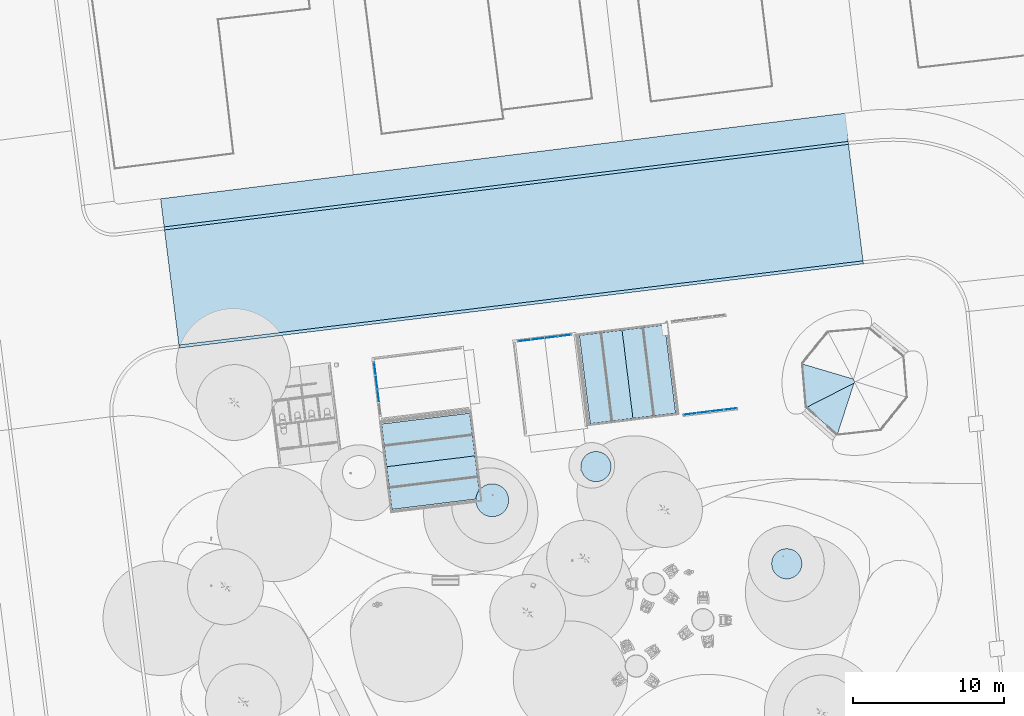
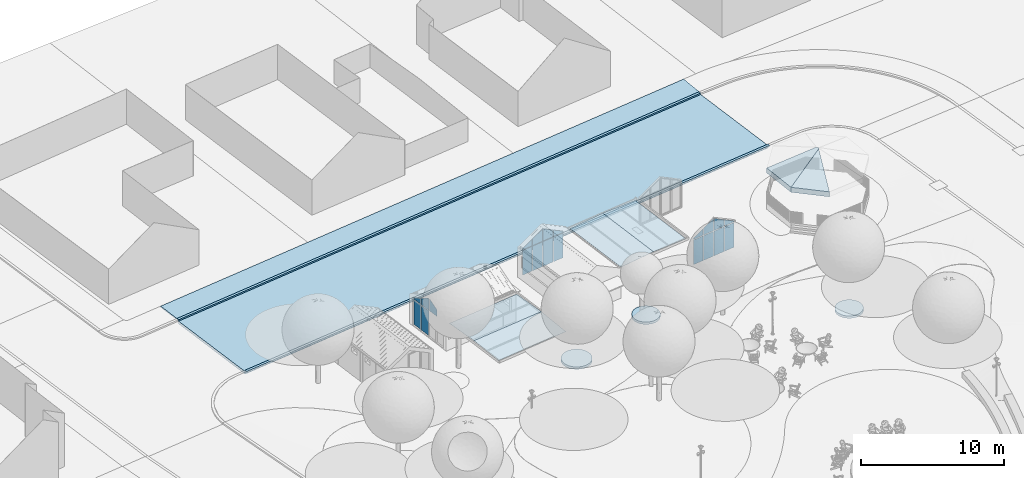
# One storey, part 13 of 75: 25 plates, 9 slabs, 6 elements without a shape of their own.
"""IFC2X3 building model written with IfcOpenShell, lengths in metres."""

from ifc_helpers import new_model, entity, si_unit, converted_unit, derived_unit, direction, frame, frame_2d, origin, origin_2d_with_axis, place, context, subcontext, project, spatial, polyline, rectangle, circle, outline, extrude, faceted_brep, source, transform, mapped, material, layer, layer_set, layer_usage, type_object, type_shapes, element, aggregate, save


model = new_model("IFC2X3")

# Units and contexts
model_context = context("Model", 3, precision=1e-05, world=origin(), true_north=direction((6.123031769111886e-17, 1.0)))
body_context = subcontext(model_context, "Body", "Model", "MODEL_VIEW")
ifc_project = project(units=[si_unit("LENGTHUNIT", "METRE"), si_unit("AREAUNIT", "SQUARE_METRE"), si_unit("VOLUMEUNIT", "CUBIC_METRE"), converted_unit("PLANEANGLEUNIT", "DEGREE", entity("IfcRatioMeasure", 0.017453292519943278), si_unit("PLANEANGLEUNIT", "RADIAN"), dimensions=[0, 0, 0, 0, 0, 0, 0]), si_unit("MASSUNIT", "GRAM", prefix="KILO"), derived_unit("MASSDENSITYUNIT", [(si_unit("MASSUNIT", "GRAM", prefix="KILO"), 1), (si_unit("LENGTHUNIT", "METRE"), -3)]), derived_unit("IONCONCENTRATIONUNIT", [(si_unit("MASSUNIT", "GRAM", prefix="KILO"), 1), (si_unit("LENGTHUNIT", "METRE"), -3)]), derived_unit("MOMENTOFINERTIAUNIT", [(si_unit("LENGTHUNIT", "METRE"), 4)]), si_unit("TIMEUNIT", "SECOND"), si_unit("FREQUENCYUNIT", "HERTZ"), si_unit("THERMODYNAMICTEMPERATUREUNIT", "DEGREE_CELSIUS"), derived_unit("THERMALTRANSMITTANCEUNIT", [(si_unit("MASSUNIT", "GRAM", prefix="KILO"), 1), (si_unit("THERMODYNAMICTEMPERATUREUNIT", "KELVIN"), -1), (si_unit("TIMEUNIT", "SECOND"), -3)]), derived_unit("THERMALCONDUCTANCEUNIT", [(si_unit("MASSUNIT", "GRAM", prefix="KILO"), 1), (si_unit("THERMODYNAMICTEMPERATUREUNIT", "KELVIN"), -1), (si_unit("TIMEUNIT", "SECOND"), -3), (si_unit("LENGTHUNIT", "METRE"), 1)]), derived_unit("VOLUMETRICFLOWRATEUNIT", [(si_unit("LENGTHUNIT", "METRE"), 3), (si_unit("TIMEUNIT", "SECOND"), -1)]), derived_unit("MASSFLOWRATEUNIT", [(si_unit("MASSUNIT", "GRAM", prefix="KILO"), 1), (si_unit("TIMEUNIT", "SECOND"), -1)]), derived_unit("ROTATIONALFREQUENCYUNIT", [(si_unit("TIMEUNIT", "SECOND"), -1)]), si_unit("ELECTRICCURRENTUNIT", "AMPERE"), si_unit("ELECTRICVOLTAGEUNIT", "VOLT"), si_unit("POWERUNIT", "WATT"), si_unit("FORCEUNIT", "NEWTON", prefix="KILO"), si_unit("ILLUMINANCEUNIT", "LUX"), si_unit("LUMINOUSFLUXUNIT", "LUMEN"), si_unit("LUMINOUSINTENSITYUNIT", "CANDELA"), derived_unit("USERDEFINED", [(si_unit("MASSUNIT", "GRAM", prefix="KILO"), -1), (si_unit("LENGTHUNIT", "METRE"), -2), (si_unit("TIMEUNIT", "SECOND"), 3), (si_unit("LUMINOUSFLUXUNIT", "LUMEN"), 1)]), derived_unit("USERDEFINED", [(si_unit("MASSUNIT", "GRAM", prefix="KILO"), 1), (si_unit("TIMEUNIT", "SECOND"), -3), (si_unit("LENGTHUNIT", "METRE"), 3), (si_unit("ELECTRICCURRENTUNIT", "AMPERE"), -2)]), derived_unit("SOUNDPOWERUNIT", [(si_unit("MASSUNIT", "GRAM", prefix="KILO"), 1), (si_unit("TIMEUNIT", "SECOND"), -3), (si_unit("LENGTHUNIT", "METRE"), 2)]), derived_unit("SOUNDPRESSUREUNIT", [(si_unit("MASSUNIT", "GRAM", prefix="KILO"), 1), (si_unit("LENGTHUNIT", "METRE"), -1), (si_unit("TIMEUNIT", "SECOND"), -2)]), derived_unit("LINEARVELOCITYUNIT", [(si_unit("LENGTHUNIT", "METRE"), 1), (si_unit("TIMEUNIT", "SECOND"), -1)]), si_unit("PRESSUREUNIT", "PASCAL"), derived_unit("USERDEFINED", [(si_unit("MASSUNIT", "GRAM", prefix="KILO"), 1), (si_unit("LENGTHUNIT", "METRE"), -2), (si_unit("TIMEUNIT", "SECOND"), -2)]), derived_unit("LINEARFORCEUNIT", [(si_unit("MASSUNIT", "GRAM", prefix="KILO"), 1), (si_unit("TIMEUNIT", "SECOND"), -2)]), derived_unit("PLANARFORCEUNIT", [(si_unit("MASSUNIT", "GRAM", prefix="KILO"), 1), (si_unit("LENGTHUNIT", "METRE"), -1), (si_unit("TIMEUNIT", "SECOND"), -2)]), derived_unit("SPECIFICHEATCAPACITYUNIT", [(si_unit("THERMODYNAMICTEMPERATUREUNIT", "KELVIN"), -1), (si_unit("LENGTHUNIT", "METRE"), 2), (si_unit("TIMEUNIT", "SECOND"), -2)]), derived_unit("HEATINGVALUEUNIT", [(si_unit("LENGTHUNIT", "METRE"), 2), (si_unit("TIMEUNIT", "SECOND"), -2)]), derived_unit("VAPORPERMEABILITYUNIT", [(si_unit("LENGTHUNIT", "METRE"), -1), (si_unit("TIMEUNIT", "SECOND"), 1)]), derived_unit("DYNAMICVISCOSITYUNIT", [(si_unit("MASSUNIT", "GRAM", prefix="KILO"), 1), (si_unit("TIMEUNIT", "SECOND"), -1), (si_unit("LENGTHUNIT", "METRE"), -1)]), derived_unit("THERMALEXPANSIONCOEFFICIENTUNIT", [(si_unit("THERMODYNAMICTEMPERATUREUNIT", "KELVIN"), -1)]), derived_unit("MODULUSOFELASTICITYUNIT", [(si_unit("MASSUNIT", "GRAM", prefix="KILO"), 1), (si_unit("LENGTHUNIT", "METRE"), -1), (si_unit("TIMEUNIT", "SECOND"), -2)]), derived_unit("ISOTHERMALMOISTURECAPACITYUNIT", [(si_unit("LENGTHUNIT", "METRE"), 3), (si_unit("MASSUNIT", "GRAM", prefix="KILO"), -1)]), derived_unit("MOISTUREDIFFUSIVITYUNIT", [(si_unit("TIMEUNIT", "SECOND"), -1), (si_unit("LENGTHUNIT", "METRE"), 2)])], contexts=[model_context])

# Site, building, storey
site_placement = place(None, origin())
site = spatial("IfcSite", under=ifc_project, at=site_placement, Name="Default", CompositionType="ELEMENT")
building_placement = place(site_placement, origin())
building = spatial("IfcBuilding", under=site, at=building_placement, Name="Projeto", CompositionType="ELEMENT")
storey_placement = place(building_placement, origin())
storey = spatial("IfcBuildingStorey", under=building, at=storey_placement, Name="Nível 1", CompositionType="ELEMENT", Elevation=0.0)

# Slab
ifc_material_1 = material(Name="Piso CAJOI PASSEIO(1)")
ifc_layer_1 = layer(ifc_material_1, 0.1)
ifc_layer_set_1 = layer_set([ifc_layer_1], Name="Piso:Basalto 40x80")
ifc_layer_usage_1 = layer_usage(ifc_layer_set_1, "AXIS3", "POSITIVE", 0.0)
slab_type_1 = type_object("IfcSlabType", Name="Piso:Basalto 40x80", PredefinedType="FLOOR", material=ifc_layer_set_1)
slab_1_placement = place(storey_placement, origin())
element("IfcSlab", 1, at=slab_1_placement, inside=storey, type_object=slab_type_1, material=ifc_layer_usage_1, Name="Piso:Basalto 40x80", ObjectType="Piso:Basalto 40x80", PredefinedType="FLOOR", context=body_context, shape_type="SweptSolid", body=[
    extrude(outline(polyline([(-22.896088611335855, -0.9401032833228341), (22.933476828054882, -0.9401032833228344), (22.858700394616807, 0.9401032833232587), (-22.89608861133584, 0.9401032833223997), (-22.896088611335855, -0.9401032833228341)])), frame((-3.165179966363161, 45.622114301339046, -2.6), z_axis=(0.0, 0.0, -1.0), x_axis=(0.9922753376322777, 0.12405504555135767, 0.0)), (0.0, 0.0, 1.0), 0.1),
])

# Roof, slabs
ifc_material_2 = material(Name="NBS_Betafence_GreenRAL6005")
ifc_layer_2 = layer(ifc_material_2, 0.4)
ifc_layer_set_2 = layer_set([ifc_layer_2], Name="Telhado básico:Genérico - 400 mm")
roof_1_placement = place(storey_placement, frame((16.56648787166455, 28.04802885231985, 0.4999999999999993)))
roof_1 = element("IfcRoof", 2, at=roof_1_placement, inside=storey, material=ifc_layer_set_2, Name="Telhado básico:Genérico - 400 mm", ObjectType="Telhado básico:Genérico - 400 mm", ShapeType="NOTDEFINED")
slab_type_2 = type_object("IfcSlabType", Name="Telhado básico:Genérico - 400 mm", PredefinedType="ROOF")
slab_2_placement = place(roof_1_placement, origin())
slab_2 = element("IfcSlab", 3, at=slab_2_placement, type_object=slab_type_2, material=ifc_layer_set_2, Name="Telhado básico:Genérico - 400 mm", ObjectType="Telhado básico:Genérico - 400 mm", PredefinedType="ROOF", context=body_context, shape_type="SweptSolid", body=[
    extrude(outline(polyline([(-1.9351413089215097, 1.2536844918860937), (-1.6241512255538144, -1.6366519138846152), (1.7336781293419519, 0.017880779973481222), (1.7740048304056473, 0.06485828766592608), (1.788343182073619, 0.11065473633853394), (1.698467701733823, 0.26650981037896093), (1.6584009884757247, 0.29731721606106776), (-1.9351413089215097, 1.2536844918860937)])), frame((1.819656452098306, 3.4364259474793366, 0.6121880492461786), z_axis=(-0.3402852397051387, -0.034405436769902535, 0.9396926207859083), x_axis=(0.9403222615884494, -0.012450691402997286, 0.3400573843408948)), (0.3400573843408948, 0.036588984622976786, 0.9396926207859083), 0.42567110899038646),
])
slab_3_placement = place(roof_1_placement, origin())
slab_3 = element("IfcSlab", 4, at=slab_3_placement, type_object=slab_type_2, material=ifc_layer_set_2, Name="Telhado básico:Genérico - 400 mm", ObjectType="Telhado básico:Genérico - 400 mm", PredefinedType="ROOF", context=body_context, shape_type="SweptSolid", body=[
    extrude(outline(polyline([(-2.178001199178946, -0.4692553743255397), (-0.0784427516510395, -2.2265975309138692), (1.0644543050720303, 1.4013003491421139), (-2.178001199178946, -0.4692553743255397)])), frame((2.4133271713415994, 2.143972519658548, 0.6011961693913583), z_axis=(-0.22748733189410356, -0.25539634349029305, 0.9396926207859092), x_axis=(0.9737810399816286, -0.05966375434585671, 0.21952385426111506)), (0.21952385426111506, 0.26227286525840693, 0.9396926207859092), 0.42567110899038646),
])
aggregate(roof_1, [slab_2, slab_3])

# Slabs
ifc_material_3 = material(Name="Concreto, Faixa de areia/cimento")
ifc_layer_3 = layer(ifc_material_3, 0.05)
ifc_material_4 = material(Name="Concreto, Moldado no local")
ifc_layer_4 = layer(ifc_material_4, 0.17500000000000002)
ifc_layer_set_3 = layer_set([ifc_layer_3, ifc_layer_4], Name="Piso:Concreto moldado em loco 225 mm")
ifc_layer_usage_2 = layer_usage(ifc_layer_set_3, "AXIS3", "POSITIVE", 0.0)
slab_type_3 = type_object("IfcSlabType", Name="Piso:Concreto moldado em loco 225 mm", PredefinedType="FLOOR", material=ifc_layer_set_3)
slab_4_placement = place(storey_placement, origin())
element("IfcSlab", 5, at=slab_4_placement, inside=storey, type_object=slab_type_3, material=ifc_layer_usage_2, Name="Piso:Concreto moldado em loco 225 mm", ObjectType="Piso:Concreto moldado em loco 225 mm", PredefinedType="FLOOR", context=body_context, shape_type="SweptSolid", body=[
    extrude(outline(polyline([(-22.87341747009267, -3.8702535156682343), (22.873417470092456, -3.8702535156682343), (22.87341747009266, 3.914106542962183), (-22.873417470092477, 3.8264004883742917), (-22.87341747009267, -3.8702535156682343)])), frame((-2.5661159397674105, 40.64764834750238, -2.72), z_axis=(0.0, 0.0, -1.0), x_axis=(0.99227533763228, 0.1240550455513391, 0.0)), (0.0, 0.0, 1.0), 0.2249999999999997),
])
ifc_material_5 = material(Name="Concreto moldado In loco")
ifc_layer_5 = layer(ifc_material_5, 0.12)
ifc_layer_set_4 = layer_set([ifc_layer_5], Name="Piso:meio fio de concreto")
ifc_layer_usage_3 = layer_usage(ifc_layer_set_4, "AXIS3", "POSITIVE", 0.0)
slab_type_4 = type_object("IfcSlabType", Name="Piso:meio fio de concreto", PredefinedType="FLOOR", material=ifc_layer_set_4)
slab_5_placement = place(storey_placement, frame((-25.767779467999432, 33.81478726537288, -2.72)))
element("IfcSlab", 6, at=slab_5_placement, inside=storey, type_object=slab_type_4, material=ifc_layer_usage_3, Name="Piso:meio fio de concreto", ObjectType="Piso:meio fio de concreto", PredefinedType="FLOOR", context=body_context, shape_type="SweptSolid", body=[
    extrude(outline(polyline([(22.219407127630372, -6.656172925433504), (-23.184929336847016, -1.068075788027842), (-23.209740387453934, -1.2665311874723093), (22.194596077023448, -6.854628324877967), (22.219407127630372, -6.656172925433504)])), frame((23.19902689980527, 6.854628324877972, 0.11999999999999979), z_axis=(0.0, 0.0, -1.0), x_axis=(-1.0, 0.0, 0.0)), (0.0, 0.0, 1.0), 0.11999999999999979),
])
slab_6_placement = place(storey_placement, frame((-25.767779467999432, 33.81478726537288, -2.72)))
element("IfcSlab", 7, at=slab_6_placement, inside=storey, type_object=slab_type_4, material=ifc_layer_usage_3, Name="Piso:meio fio de concreto:2", ObjectType="Piso:meio fio de concreto", PredefinedType="FLOOR", context=body_context, shape_type="SweptSolid", body=[
    extrude(rectangle(XDim=0.1999999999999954, YDim=45.74683494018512, at=frame_2d((0.48989335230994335, 3.9178174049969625), x_axis=(-0.12405504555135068, -0.9922753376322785))), frame((23.19902689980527, 6.854628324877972, 0.11999999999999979), z_axis=(0.0, 0.0, -1.0), x_axis=(-1.0, 0.0, 0.0)), (0.0, 0.0, 1.0), 0.11999999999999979),
])
ifc_material_6 = material(Name="floração tipo 2")
ifc_layer_6 = layer(ifc_material_6, 0.04)
ifc_layer_7 = layer(ifc_material_6, 0.16)
ifc_layer_set_5 = layer_set([ifc_layer_6, ifc_layer_7], Name="Piso:Floração tipo 2")
ifc_layer_usage_4 = layer_usage(ifc_layer_set_5, "AXIS3", "POSITIVE", 0.0)
slab_type_5 = type_object("IfcSlabType", Name="Piso:Floração tipo 2", PredefinedType="FLOOR", material=ifc_layer_set_5)
slab_7_placement = place(storey_placement, frame((-13.925292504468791, 18.495659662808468, -2.8)))
element("IfcSlab", 8, at=slab_7_placement, inside=storey, type_object=slab_type_5, material=ifc_layer_usage_4, Name="Piso:Floração tipo 2:2", ObjectType="Piso:Floração tipo 2", PredefinedType="FLOOR", context=body_context, shape_type="SweptSolid", body=[
    extrude(circle(Radius=1.088876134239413, at=frame_2d((5.3031804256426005, 0.9910428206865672), x_axis=(1.0, 0.0))), frame((15.23895009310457, 4.224767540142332, 0.2), z_axis=(0.0, 0.0, -1.0), x_axis=(-1.0, 0.0, 0.0)), (0.0, 0.0, 1.0), 0.2),
])
slab_8_placement = place(storey_placement, frame((-13.925292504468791, 18.495659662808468, -2.8)))
element("IfcSlab", 9, at=slab_8_placement, inside=storey, type_object=slab_type_5, material=ifc_layer_usage_4, Name="Piso:Floração tipo 2:3", ObjectType="Piso:Floração tipo 2", PredefinedType="FLOOR", context=body_context, shape_type="SweptSolid", body=[
    extrude(circle(Radius=0.9999999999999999, at=frame_2d((-1.5810247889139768, 3.2247675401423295), x_axis=(1.0, 0.0))), frame((15.23895009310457, 4.224767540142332, 0.2), z_axis=(0.0, 0.0, -1.0), x_axis=(-1.0, 0.0, 0.0)), (0.0, 0.0, 1.0), 0.2),
])
slab_9_placement = place(storey_placement, frame((-13.925292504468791, 18.495659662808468, -2.8)))
element("IfcSlab", 10, at=slab_9_placement, inside=storey, type_object=slab_type_5, material=ifc_layer_usage_4, Name="Piso:Floração tipo 2:4", ObjectType="Piso:Floração tipo 2", PredefinedType="FLOOR", context=body_context, shape_type="SweptSolid", body=[
    extrude(circle(Radius=0.9999999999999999, at=frame_2d((-14.23895009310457, -3.2247675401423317), x_axis=(1.0, 0.0))), frame((15.23895009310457, 4.224767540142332, 0.2), z_axis=(0.0, 0.0, -1.0), x_axis=(-1.0, 0.0, 0.0)), (0.0, 0.0, 1.0), 0.2),
])

# Roof, plates
curtain_wall_type_1 = type_object("IfcCurtainWallType", Name="Vidraça inclinada:Vidraça inclinada", PredefinedType="NOTDEFINED")
roof_2_placement = place(storey_placement, origin())
roof_2 = element("IfcRoof", 11, at=roof_2_placement, inside=storey, type_object=curtain_wall_type_1, Name="Vidraça inclinada:Vidraça inclinada", ObjectType="Vidraça inclinada:Vidraça inclinada", ShapeType="NOTDEFINED")
ifc_material_7 = material(Name="Vidro")
plate_type_1 = type_object("IfcPlateType", Name="Painel do sistema:Envidraçado", PredefinedType="CURTAIN_PANEL", material=ifc_material_7)
shared_shape_1 = source(origin(), body_context, "Body", "SweptSolid", [
    extrude(rectangle(XDim=0.010000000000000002, YDim=5.899999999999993, at=origin_2d_with_axis()), frame((0.0, 0.037000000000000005, 0.0), z_axis=(0.0, 0.0, 1.0), x_axis=(0.0, 1.0, 0.0)), (0.0, 0.0, 1.0), 2.858203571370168),
])
type_shapes(plate_type_1, [shared_shape_1])
plate_1_placement = place(roof_2_placement, frame((-7.716100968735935, 23.4618389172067, -0.09999999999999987), z_axis=(-0.12205825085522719, 0.9917461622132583, 0.03925981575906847), x_axis=(0.9925113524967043, 0.12215242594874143, 0.0)))
plate_1 = element("IfcPlate", 12, at=plate_1_placement, type_object=plate_type_1, material=ifc_material_7, Name="Painel do sistema:Envidraçado", ObjectType="Painel do sistema:Envidraçado", context=body_context, shape_type="MappedRepresentation", body=[
    mapped(shared_shape_1, transform((0.0, 0.0, 0.0), scale=1.0)),
])
plate_2_placement = place(roof_2_placement, frame((-8.413835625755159, 29.131063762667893, -0.10000000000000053), z_axis=(0.12205825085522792, -0.9917461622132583, 0.039259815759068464), x_axis=(-0.9925113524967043, -0.12215242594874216, 0.0)))
plate_2 = element("IfcPlate", 13, at=plate_2_placement, type_object=plate_type_1, material=ifc_material_7, Name="Painel do sistema:Envidraçado", ObjectType="Painel do sistema:Envidraçado", context=body_context, shape_type="MappedRepresentation", body=[
    mapped(shared_shape_1, transform((0.0, 0.0, 0.0), scale=1.0)),
])
aggregate(roof_2, [plate_1, plate_2])

roof_3_placement = place(storey_placement, origin())
roof_3 = element("IfcRoof", 14, at=roof_3_placement, inside=storey, type_object=curtain_wall_type_1, Name="Vidraça inclinada:Vidraça inclinada", ObjectType="Vidraça inclinada:Vidraça inclinada", ShapeType="NOTDEFINED")
plate_3_placement = place(roof_3_placement, frame((7.819186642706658, 32.42053818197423, -0.18000000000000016), z_axis=(-0.9917461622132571, -0.12205825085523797, 0.03925981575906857), x_axis=(-0.12215242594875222, 0.9925113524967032, 0.0)))
plate_3 = element("IfcPlate", 15, at=plate_3_placement, type_object=plate_type_1, material=ifc_material_7, Name="Painel do sistema:Envidraçado", ObjectType="Painel do sistema:Envidraçado", context=body_context, shape_type="MappedRepresentation", body=[
    mapped(shared_shape_1, transform((0.0, 0.0, 0.0), scale=1.0)),
])
plate_4_placement = place(roof_3_placement, frame((2.149961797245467, 31.722803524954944, -0.18000000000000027), z_axis=(0.9917461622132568, 0.12205825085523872, 0.039259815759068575), x_axis=(0.12215242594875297, -0.992511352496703, 0.0)))
plate_4 = element("IfcPlate", 16, at=plate_4_placement, type_object=plate_type_1, material=ifc_material_7, Name="Painel do sistema:Envidraçado", ObjectType="Painel do sistema:Envidraçado", context=body_context, shape_type="MappedRepresentation", body=[
    mapped(shared_shape_1, transform((0.0, 0.0, 0.0), scale=1.0)),
])
aggregate(roof_3, [plate_3, plate_4])

# Curtain wall, plates
curtain_wall_type_2 = type_object("IfcCurtainWallType", Name="Parede cortina:Vitrine", PredefinedType="NOTDEFINED")
curtain_wall_1_placement = place(storey_placement, origin())
curtain_wall_1 = element("IfcCurtainWall", 17, at=curtain_wall_1_placement, inside=storey, type_object=curtain_wall_type_2, Name="Parede cortina:Vitrine", ObjectType="Parede cortina:Vitrine")
plate_type_2 = type_object("IfcPlateType", Name="Painel do sistema:Envidraçado", PredefinedType="CURTAIN_PANEL", material=ifc_material_7)
shared_shape_2 = source(origin(), body_context, "Body", "SweptSolid", [
    extrude(rectangle(XDim=0.010000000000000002, YDim=0.8337612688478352, at=frame_2d((-4.336808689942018e-18, -1.3877787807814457e-16), x_axis=(1.0, 0.0))), frame((0.0, 0.037, 0.0), z_axis=(0.0, 0.0, 1.0), x_axis=(0.0, 1.0, 0.0)), (0.0, 0.0, 1.0), 2.1079684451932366),
])
type_shapes(plate_type_2, [shared_shape_2])
plate_5_placement = place(curtain_wall_1_placement, frame((0.813731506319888, 34.67227682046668, -2.529999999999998), z_axis=(0.0, 0.0, 1.0), x_axis=(-0.992511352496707, -0.12215242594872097, 0.0)))
plate_5 = element("IfcPlate", 18, at=plate_5_placement, type_object=plate_type_2, material=ifc_material_7, Name="Painel do sistema:Envidraçado", ObjectType="Painel do sistema:Envidraçado", context=body_context, shape_type="MappedRepresentation", body=[
    mapped(shared_shape_2, transform((0.0, 0.0, 0.0), scale=1.0)),
])
plate_6_placement = place(curtain_wall_1_placement, frame((-1.867323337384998, 34.342308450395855, -2.529999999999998), z_axis=(0.0, 0.0, 1.0), x_axis=(-0.992511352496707, -0.12215242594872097, 0.0)))
plate_6 = element("IfcPlate", 19, at=plate_6_placement, type_object=plate_type_2, material=ifc_material_7, Name="Painel do sistema:Envidraçado", ObjectType="Painel do sistema:Envidraçado", context=body_context, shape_type="MappedRepresentation", body=[
    mapped(shared_shape_2, transform((0.0, 0.0, 0.0), scale=1.0)),
])

# Curtain wall, plate
curtain_wall_2_placement = place(storey_placement, origin())
curtain_wall_2 = element("IfcCurtainWall", 20, at=curtain_wall_2_placement, inside=storey, type_object=curtain_wall_type_2, Name="Parede cortina:Vitrine", ObjectType="Parede cortina:Vitrine")
plate_7_placement = place(curtain_wall_2_placement, frame((-11.807838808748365, 32.43310973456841, -2.5299999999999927), z_axis=(0.0, 0.0, 1.0), x_axis=(0.12215242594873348, -0.9925113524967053, 0.0)))
plate_7 = element("IfcPlate", 21, at=plate_7_placement, type_object=plate_type_2, material=ifc_material_7, Name="Painel do sistema:Envidraçado", ObjectType="Painel do sistema:Envidraçado", context=body_context, shape_type="MappedRepresentation", body=[
    mapped(shared_shape_2, transform((0.0, 0.0, 0.0), scale=1.0)),
])

# Curtain wall, plates
curtain_wall_3_placement = place(storey_placement, origin())
curtain_wall_3 = element("IfcCurtainWall", 22, at=curtain_wall_3_placement, inside=storey, type_object=curtain_wall_type_2, Name="Parede cortina:Vitrine", ObjectType="Parede cortina:Vitrine")
plate_8_placement = place(curtain_wall_3_placement, frame((9.133172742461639, 29.400995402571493, -2.5299999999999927), z_axis=(0.0, 0.0, 1.0), x_axis=(0.9925113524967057, 0.1221524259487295, 0.0)))
plate_8 = element("IfcPlate", 23, at=plate_8_placement, type_object=plate_type_2, material=ifc_material_7, Name="Painel do sistema:Envidraçado", ObjectType="Painel do sistema:Envidraçado", context=body_context, shape_type="MappedRepresentation", body=[
    mapped(shared_shape_2, transform((0.0, 0.0, 0.0), scale=1.0)),
])
plate_9_placement = place(curtain_wall_3_placement, frame((11.814227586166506, 29.730963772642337, -2.5299999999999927), z_axis=(0.0, 0.0, 1.0), x_axis=(0.9925113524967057, 0.1221524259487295, 0.0)))
plate_9 = element("IfcPlate", 24, at=plate_9_placement, type_object=plate_type_2, material=ifc_material_7, Name="Painel do sistema:Envidraçado", ObjectType="Painel do sistema:Envidraçado", context=body_context, shape_type="MappedRepresentation", body=[
    mapped(shared_shape_2, transform((0.0, 0.0, 0.0), scale=1.0)),
])

# Plate
plate_type_3 = type_object("IfcPlateType", Name="Painel do sistema:Envidraçado", PredefinedType="CURTAIN_PANEL", material=ifc_material_7)
shared_shape_3 = source(origin(), body_context, "Body", "SweptSolid", [
    extrude(rectangle(XDim=0.010000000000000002, YDim=0.858761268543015, at=frame_2d((-4.336808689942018e-18, 5.551115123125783e-17), x_axis=(1.0, 0.0))), frame((0.0, 0.03699999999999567, 0.0), z_axis=(0.0, 0.0, 1.0), x_axis=(0.0, 1.0, 0.0)), (0.0, 0.0, 1.0), 2.1079684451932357),
])
type_shapes(plate_type_3, [shared_shape_3])
plate_10_placement = place(curtain_wall_1_placement, frame((-0.07581797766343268, 34.56279633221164, -2.529999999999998), z_axis=(0.0, 0.0, 1.0), x_axis=(-0.992511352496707, -0.12215242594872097, 0.0)))
plate_10 = element("IfcPlate", 25, at=plate_10_placement, type_object=plate_type_3, material=ifc_material_7, Name="Painel do sistema:Envidraçado", ObjectType="Painel do sistema:Envidraçado", context=body_context, shape_type="MappedRepresentation", body=[
    mapped(shared_shape_3, transform((0.0, 0.0, 0.0), scale=1.0)),
])

plate_11_placement = place(curtain_wall_1_placement, frame((-0.9777738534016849, 34.451788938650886, -2.529999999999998), z_axis=(0.0, 0.0, 1.0), x_axis=(-0.992511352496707, -0.12215242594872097, 0.0)))
plate_11 = element("IfcPlate", 26, at=plate_11_placement, type_object=plate_type_3, material=ifc_material_7, Name="Painel do sistema:Envidraçado", ObjectType="Painel do sistema:Envidraçado", context=body_context, shape_type="MappedRepresentation", body=[
    mapped(shared_shape_3, transform((0.0, 0.0, 0.0), scale=1.0)),
])

plate_12_placement = place(curtain_wall_2_placement, frame((-11.69835832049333, 31.54356025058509, -2.5299999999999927), z_axis=(0.0, 0.0, 1.0), x_axis=(0.12215242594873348, -0.9925113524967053, 0.0)))
plate_12 = element("IfcPlate", 27, at=plate_12_placement, type_object=plate_type_3, material=ifc_material_7, Name="Painel do sistema:Envidraçado", ObjectType="Painel do sistema:Envidraçado", context=body_context, shape_type="MappedRepresentation", body=[
    mapped(shared_shape_3, transform((0.0, 0.0, 0.0), scale=1.0)),
])

plate_13_placement = place(curtain_wall_3_placement, frame((10.022722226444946, 29.51047589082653, -2.5299999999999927), z_axis=(0.0, 0.0, 1.0), x_axis=(0.9925113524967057, 0.1221524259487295, 0.0)))
plate_13 = element("IfcPlate", 28, at=plate_13_placement, type_object=plate_type_3, material=ifc_material_7, Name="Painel do sistema:Envidraçado", ObjectType="Painel do sistema:Envidraçado", context=body_context, shape_type="MappedRepresentation", body=[
    mapped(shared_shape_3, transform((0.0, 0.0, 0.0), scale=1.0)),
])

plate_14_placement = place(curtain_wall_3_placement, frame((10.924678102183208, 29.621483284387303, -2.5299999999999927), z_axis=(0.0, 0.0, 1.0), x_axis=(0.9925113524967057, 0.1221524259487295, 0.0)))
plate_14 = element("IfcPlate", 29, at=plate_14_placement, type_object=plate_type_3, material=ifc_material_7, Name="Painel do sistema:Envidraçado", ObjectType="Painel do sistema:Envidraçado", context=body_context, shape_type="MappedRepresentation", body=[
    mapped(shared_shape_3, transform((0.0, 0.0, 0.0), scale=1.0)),
])

plate_type_4 = type_object("IfcPlateType", Name="Painel do sistema:Envidraçado", PredefinedType="CURTAIN_PANEL", material=ifc_material_7)
shared_shape_4 = source(origin(), body_context, "Body", "SweptSolid", [
    extrude(outline(polyline([(-0.16823398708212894, -0.4168806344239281), (-0.05342537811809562, -0.4168806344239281), (0.3898933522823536, 0.41688063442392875), (-0.16823398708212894, 0.4168806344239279), (-0.16823398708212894, -0.4168806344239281)])), frame((0.0, 0.032000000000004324, 0.1682339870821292), z_axis=(0.0, 1.0, 0.0), x_axis=(0.0, 0.0, 1.0)), (0.0, 0.0, 1.0), 0.010000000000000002),
])
type_shapes(plate_type_4, [shared_shape_4])
plate_15_placement = place(curtain_wall_1_placement, frame((0.813731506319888, 34.67227682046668, -0.37203155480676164), z_axis=(0.0, 0.0, 1.0), x_axis=(-0.992511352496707, -0.12215242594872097, 0.0)))
plate_15 = element("IfcPlate", 30, at=plate_15_placement, type_object=plate_type_4, material=ifc_material_7, Name="Painel do sistema:Envidraçado", ObjectType="Painel do sistema:Envidraçado", context=body_context, shape_type="MappedRepresentation", body=[
    mapped(shared_shape_4, transform((0.0, 0.0, 0.0), scale=1.0)),
])

plate_16_placement = place(curtain_wall_2_placement, frame((-11.807838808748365, 32.43310973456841, -0.37203155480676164), z_axis=(0.0, 0.0, 1.0), x_axis=(0.12215242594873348, -0.9925113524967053, 0.0)))
plate_16 = element("IfcPlate", 31, at=plate_16_placement, type_object=plate_type_4, material=ifc_material_7, Name="Painel do sistema:Envidraçado", ObjectType="Painel do sistema:Envidraçado", context=body_context, shape_type="MappedRepresentation", body=[
    mapped(shared_shape_4, transform((0.0, 0.0, 0.0), scale=1.0)),
])

plate_17_placement = place(curtain_wall_3_placement, frame((9.133172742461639, 29.400995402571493, -0.37203155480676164), z_axis=(0.0, 0.0, 1.0), x_axis=(0.9925113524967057, 0.1221524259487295, 0.0)))
plate_17 = element("IfcPlate", 32, at=plate_17_placement, type_object=plate_type_4, material=ifc_material_7, Name="Painel do sistema:Envidraçado", ObjectType="Painel do sistema:Envidraçado", context=body_context, shape_type="MappedRepresentation", body=[
    mapped(shared_shape_4, transform((0.0, 0.0, 0.0), scale=1.0)),
])

plate_type_5 = type_object("IfcPlateType", Name="Painel do sistema:Envidraçado", PredefinedType="CURTAIN_PANEL", material=ifc_material_7)
shared_shape_5 = source(origin(), body_context, "Body", "Brep", [
    faceted_brep([(0.0, 0.0, 0.0), (0.8587612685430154, 0.0, 0.0), (0.8587612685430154, 0.0, 1.116815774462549), (0.8764993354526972, 0.0, 1.1073842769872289), (0.8999729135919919, 0.0, 1.0632368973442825), (0.0, 0.0, 0.5847128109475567), (0.0, 0.010000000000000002, 0.0), (0.0, 0.010000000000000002, 0.5847128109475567), (0.8999729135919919, 0.010000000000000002, 1.0632368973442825), (0.8764993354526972, 0.010000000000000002, 1.1073842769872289), (0.8587612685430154, 0.010000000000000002, 1.116815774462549), (0.8587612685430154, 0.010000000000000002, 0.0)], [[[0, 1, 2, 3, 4, 5]], [[6, 7, 8, 9, 10, 11]], [[1, 0, 6, 11]], [[2, 1, 11, 10]], [[3, 2, 10, 9]], [[4, 3, 9, 8]], [[5, 4, 8, 7]], [[0, 5, 7, 6]]]),
])
type_shapes(plate_type_5, [shared_shape_5])
plate_18_placement = place(curtain_wall_1_placement, frame((0.3542560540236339, 34.583485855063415, -0.37203155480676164), z_axis=(0.0, 0.0, 1.0), x_axis=(-0.992511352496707, -0.12215242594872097, 0.0)))
plate_18 = element("IfcPlate", 33, at=plate_18_placement, type_object=plate_type_5, material=ifc_material_7, Name="Painel do sistema:Envidraçado", ObjectType="Painel do sistema:Envidraçado", context=body_context, shape_type="MappedRepresentation", body=[
    mapped(shared_shape_5, transform((0.0, 0.0, 0.0), scale=1.0)),
])

plate_19_placement = place(curtain_wall_2_placement, frame((-11.719047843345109, 31.973634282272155, -0.37203155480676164), z_axis=(0.0, 0.0, 1.0), x_axis=(0.12215242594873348, -0.9925113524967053, 0.0)))
plate_19 = element("IfcPlate", 34, at=plate_19_placement, type_object=plate_type_5, material=ifc_material_7, Name="Painel do sistema:Envidraçado", ObjectType="Painel do sistema:Envidraçado", context=body_context, shape_type="MappedRepresentation", body=[
    mapped(shared_shape_5, transform((0.0, 0.0, 0.0), scale=1.0)),
])

plate_20_placement = place(curtain_wall_3_placement, frame((9.592648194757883, 29.48978636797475, -0.37203155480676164), z_axis=(0.0, 0.0, 1.0), x_axis=(0.9925113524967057, 0.1221524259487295, 0.0)))
plate_20 = element("IfcPlate", 35, at=plate_20_placement, type_object=plate_type_5, material=ifc_material_7, Name="Painel do sistema:Envidraçado", ObjectType="Painel do sistema:Envidraçado", context=body_context, shape_type="MappedRepresentation", body=[
    mapped(shared_shape_5, transform((0.0, 0.0, 0.0), scale=1.0)),
])

plate_type_6 = type_object("IfcPlateType", Name="Painel do sistema:Envidraçado", PredefinedType="CURTAIN_PANEL", material=ifc_material_7)
shared_shape_6 = source(origin(), body_context, "Body", "SweptSolid", [
    extrude(outline(polyline([(-0.4026480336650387, -0.4293806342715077), (0.6309537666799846, -0.4293806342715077), (0.1743423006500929, 0.4293806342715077), (-0.4026480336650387, 0.42938063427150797), (-0.4026480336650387, -0.4293806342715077)])), frame((0.0, 0.031999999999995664, 0.402648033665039), z_axis=(0.0, 1.0, 0.0), x_axis=(0.0, 0.0, 1.0)), (0.0, 0.0, 1.0), 0.010000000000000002),
])
type_shapes(plate_type_6, [shared_shape_6])
plate_21_placement = place(curtain_wall_1_placement, frame((-0.9777738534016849, 34.451788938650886, -0.37203155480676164), z_axis=(0.0, 0.0, 1.0), x_axis=(-0.992511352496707, -0.12215242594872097, 0.0)))
plate_21 = element("IfcPlate", 36, at=plate_21_placement, type_object=plate_type_6, material=ifc_material_7, Name="Painel do sistema:Envidraçado", ObjectType="Painel do sistema:Envidraçado", context=body_context, shape_type="MappedRepresentation", body=[
    mapped(shared_shape_6, transform((0.0, 0.0, 0.0), scale=1.0)),
])

plate_22_placement = place(curtain_wall_2_placement, frame((-11.587350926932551, 30.641604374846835, -0.37203155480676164), z_axis=(0.0, 0.0, 1.0), x_axis=(0.12215242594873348, -0.9925113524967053, 0.0)))
plate_22 = element("IfcPlate", 37, at=plate_22_placement, type_object=plate_type_6, material=ifc_material_7, Name="Painel do sistema:Envidraçado", ObjectType="Painel do sistema:Envidraçado", context=body_context, shape_type="MappedRepresentation", body=[
    mapped(shared_shape_6, transform((0.0, 0.0, 0.0), scale=1.0)),
])

aggregate(curtain_wall_2, [plate_7, plate_12, plate_16, plate_19, plate_22])

plate_23_placement = place(curtain_wall_3_placement, frame((10.924678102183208, 29.621483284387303, -0.37203155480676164), z_axis=(0.0, 0.0, 1.0), x_axis=(0.9925113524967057, 0.1221524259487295, 0.0)))
plate_23 = element("IfcPlate", 38, at=plate_23_placement, type_object=plate_type_6, material=ifc_material_7, Name="Painel do sistema:Envidraçado", ObjectType="Painel do sistema:Envidraçado", context=body_context, shape_type="MappedRepresentation", body=[
    mapped(shared_shape_6, transform((0.0, 0.0, 0.0), scale=1.0)),
])

plate_type_7 = type_object("IfcPlateType", Name="Painel do sistema:Envidraçado", PredefinedType="CURTAIN_PANEL", material=ifc_material_7)
shared_shape_7 = source(origin(), body_context, "Body", "SweptSolid", [
    extrude(outline(polyline([(-0.16437274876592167, -0.41688063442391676), (0.3860321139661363, -0.41688063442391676), (-0.057286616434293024, 0.4168806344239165), (-0.16437274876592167, 0.4168806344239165), (-0.16437274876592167, -0.41688063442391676)])), frame((0.0, 0.031999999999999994, 0.16437274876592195), z_axis=(0.0, 1.0, 0.0), x_axis=(0.0, 0.0, 1.0)), (0.0, 0.0, 1.0), 0.010000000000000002),
])
type_shapes(plate_type_7, [shared_shape_7])
plate_24_placement = place(curtain_wall_1_placement, frame((-1.8673233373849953, 34.342308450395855, -0.37203155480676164), z_axis=(0.0, 0.0, 1.0), x_axis=(-0.992511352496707, -0.12215242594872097, 0.0)))
plate_24 = element("IfcPlate", 39, at=plate_24_placement, type_object=plate_type_7, material=ifc_material_7, Name="Painel do sistema:Envidraçado", ObjectType="Painel do sistema:Envidraçado", context=body_context, shape_type="MappedRepresentation", body=[
    mapped(shared_shape_7, transform((0.0, 0.0, 0.0), scale=1.0)),
])

aggregate(curtain_wall_1, [plate_5, plate_10, plate_11, plate_6, plate_15, plate_18, plate_21, plate_24])

plate_25_placement = place(curtain_wall_3_placement, frame((11.814227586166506, 29.730963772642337, -0.37203155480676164), z_axis=(0.0, 0.0, 1.0), x_axis=(0.9925113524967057, 0.1221524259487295, 0.0)))
plate_25 = element("IfcPlate", 40, at=plate_25_placement, type_object=plate_type_7, material=ifc_material_7, Name="Painel do sistema:Envidraçado", ObjectType="Painel do sistema:Envidraçado", context=body_context, shape_type="MappedRepresentation", body=[
    mapped(shared_shape_7, transform((0.0, 0.0, 0.0), scale=1.0)),
])

aggregate(curtain_wall_3, [plate_8, plate_13, plate_14, plate_9, plate_17, plate_20, plate_23, plate_25])

save(model, "model.ifc")
